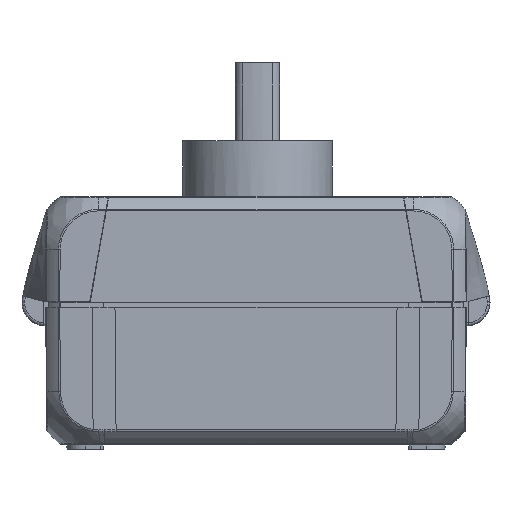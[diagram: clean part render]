
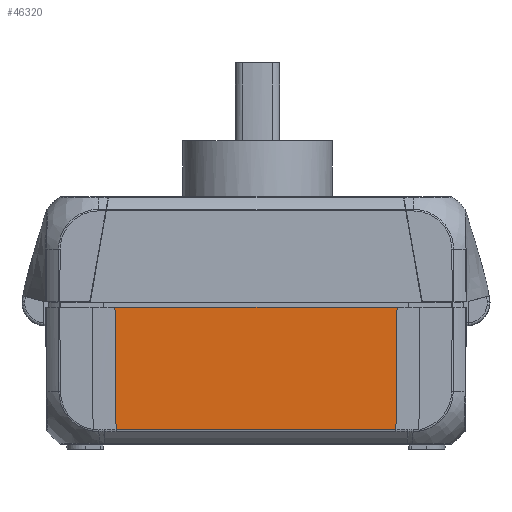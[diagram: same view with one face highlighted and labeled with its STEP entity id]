
A CAD part, front view. The second image highlights one B-rep face of the part: STEP entity #46320.
In plain terms, the highlighted planar face has unit normal (0, -1, -0.009).
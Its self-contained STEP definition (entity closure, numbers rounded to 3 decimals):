
#2888=PLANE('',#49439);
#4355=FACE_OUTER_BOUND('',#6995,.T.);
#6995=EDGE_LOOP('',(#31690,#31691,#31692,#31693));
#9704=LINE('',#69380,#13607);
#9750=LINE('',#84131,#13653);
#9832=LINE('',#85495,#13735);
#9833=LINE('',#85496,#13736);
#13607=VECTOR('',#54613,53.636);
#13653=VECTOR('',#54907,53.229);
#13735=VECTOR('',#55209,23.328);
#13736=VECTOR('',#55210,23.328);
#18783=VERTEX_POINT('',#69377);
#18784=VERTEX_POINT('',#69379);
#18855=VERTEX_POINT('',#84125);
#18856=VERTEX_POINT('',#84129);
#23398=EDGE_CURVE('',#18784,#18783,#9704,.T.);
#23550=EDGE_CURVE('',#18856,#18855,#9750,.T.);
#23665=EDGE_CURVE('',#18784,#18856,#9832,.T.);
#23666=EDGE_CURVE('',#18855,#18783,#9833,.T.);
#31690=ORIENTED_EDGE('',*,*,#23550,.F.);
#31691=ORIENTED_EDGE('',*,*,#23665,.F.);
#31692=ORIENTED_EDGE('',*,*,#23398,.T.);
#31693=ORIENTED_EDGE('',*,*,#23666,.F.);
#46320=ADVANCED_FACE('',(#4355),#2888,.T.);
#49439=AXIS2_PLACEMENT_3D('',#85494,#55207,#55208);
#54613=DIRECTION('',(-1.,0.,0.));
#54907=DIRECTION('',(-1.,0.,0.));
#55207=DIRECTION('center_axis',(0.,-1.,
-0.009));
#55208=DIRECTION('ref_axis',(0.,0.009,-1.));
#55209=DIRECTION('',(-0.009,0.009,-1.));
#55210=DIRECTION('',(-0.009,-0.009,1.));
#69377=CARTESIAN_POINT('',(-17.111,-14.975,-22.499));
#69379=CARTESIAN_POINT('',(36.525,-14.975,-22.499));
#69380=CARTESIAN_POINT('',(36.525,-14.975,-22.499));
#84125=CARTESIAN_POINT('',(-16.908,-14.772,-45.825));
#84129=CARTESIAN_POINT('',(36.322,-14.772,-45.825));
#84131=CARTESIAN_POINT('',(36.322,-14.772,-45.825));
#85494=CARTESIAN_POINT('Origin',(49.707,-14.748,-48.498));
#85495=CARTESIAN_POINT('',(36.525,-14.975,-22.499));
#85496=CARTESIAN_POINT('',(-16.908,-14.772,-45.825));
